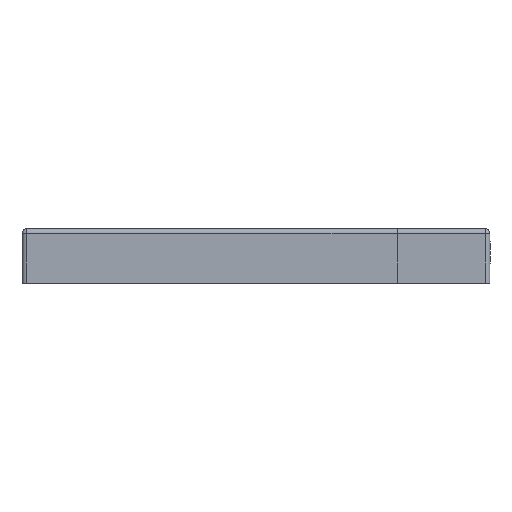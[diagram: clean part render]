
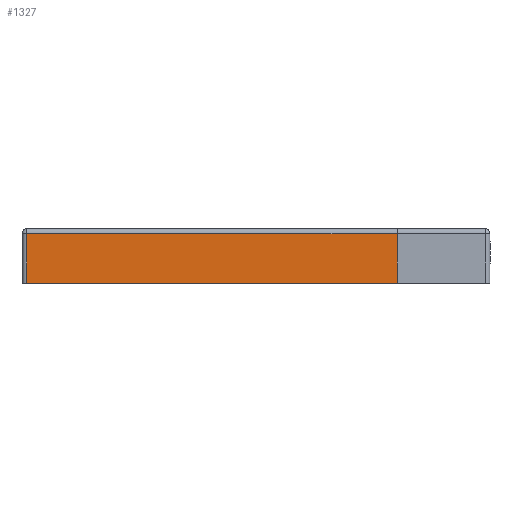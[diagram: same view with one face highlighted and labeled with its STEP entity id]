
A CAD part, front view. The second image highlights one B-rep face of the part: STEP entity #1327.
In plain terms, the highlighted planar face has unit normal (0, -1, -0.018).
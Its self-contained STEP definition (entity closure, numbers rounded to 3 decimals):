
#1327=ADVANCED_FACE('',(#4372),#3159,.F.);
#3159=PLANE('',#36000);
#4372=FACE_OUTER_BOUND('',#6114,.T.);
#6114=EDGE_LOOP('',(#15138,#15139,#15140,#15141,#15142,#15143,#15144));
#8908=LINE('',#47453,#11810);
#9020=LINE('',#47793,#11922);
#9021=LINE('',#47803,#11923);
#9022=LINE('',#47805,#11924);
#9023=LINE('',#47807,#11925);
#11810=VECTOR('',#38768,1.);
#11922=VECTOR('',#38972,1.);
#11923=VECTOR('',#38975,1.);
#11924=VECTOR('',#38976,1.);
#11925=VECTOR('',#38977,1.);
#15138=ORIENTED_EDGE('',*,*,#29341,.T.);
#15139=ORIENTED_EDGE('',*,*,#29342,.T.);
#15140=ORIENTED_EDGE('',*,*,#29343,.T.);
#15141=ORIENTED_EDGE('',*,*,#29344,.T.);
#15142=ORIENTED_EDGE('',*,*,#29345,.T.);
#15143=ORIENTED_EDGE('',*,*,#29346,.T.);
#15144=ORIENTED_EDGE('',*,*,#29200,.T.);
#25603=VERTEX_POINT('',#47452);
#25604=VERTEX_POINT('',#47454);
#25721=VERTEX_POINT('',#47792);
#25722=VERTEX_POINT('',#47797);
#25723=VERTEX_POINT('',#47802);
#25724=VERTEX_POINT('',#47804);
#25725=VERTEX_POINT('',#47806);
#29200=EDGE_CURVE('',#25604,#25603,#8908,.T.);
#29341=EDGE_CURVE('',#25603,#25721,#9020,.T.);
#29342=EDGE_CURVE('',#25721,#25722,#34346,.T.);
#29343=EDGE_CURVE('',#25722,#25723,#34347,.T.);
#29344=EDGE_CURVE('',#25723,#25724,#9021,.T.);
#29345=EDGE_CURVE('',#25724,#25725,#9022,.T.);
#29346=EDGE_CURVE('',#25725,#25604,#9023,.T.);
#34346=B_SPLINE_CURVE_WITH_KNOTS('',1,(#47795,#47796),.UNSPECIFIED.,.F.,
 .F.,(2,2),(0.,1.),.UNSPECIFIED.);
#34347=B_SPLINE_CURVE_WITH_KNOTS('',3,(#47798,#47799,#47800,#47801),
 .UNSPECIFIED.,.F.,.F.,(4,4),(0.,1.),.UNSPECIFIED.);
#36000=AXIS2_PLACEMENT_3D('',#47808,#38978,#38979);
#38768=DIRECTION('',(0.,-0.017,1.));
#38972=DIRECTION('',(-1.,0.,0.));
#38975=DIRECTION('',(1.,0.,0.));
#38976=DIRECTION('',(1.,0.,0.));
#38977=DIRECTION('',(1.,0.,0.));
#38978=DIRECTION('',(0.,1.,0.017));
#38979=DIRECTION('',(0.,0.017,-1.));
#47452=CARTESIAN_POINT('',(103.008,-172.706,0.));
#47453=CARTESIAN_POINT('',(103.008,-172.571,-7.737));
#47454=CARTESIAN_POINT('',(103.008,-172.436,-15.474));
#47792=CARTESIAN_POINT('',(-12.492,-172.706,0.));
#47793=CARTESIAN_POINT('',(81.008,-172.706,0.));
#47795=CARTESIAN_POINT('',(-12.492,-172.706,0.));
#47796=CARTESIAN_POINT('',(-12.492,-172.436,-15.474));
#47797=CARTESIAN_POINT('',(-12.492,-172.436,-15.474));
#47798=CARTESIAN_POINT('',(-12.492,-172.436,-15.474));
#47799=CARTESIAN_POINT('',(-3.325,-172.436,-15.474));
#47800=CARTESIAN_POINT('',(5.841,-172.436,-15.474));
#47801=CARTESIAN_POINT('',(15.008,-172.436,-15.474));
#47802=CARTESIAN_POINT('',(15.008,-172.436,-15.474));
#47803=CARTESIAN_POINT('',(26.008,-172.436,-15.474));
#47804=CARTESIAN_POINT('',(37.008,-172.436,-15.474));
#47805=CARTESIAN_POINT('',(70.008,-172.436,-15.474));
#47806=CARTESIAN_POINT('',(81.008,-172.436,-15.474));
#47807=CARTESIAN_POINT('',(92.008,-172.436,-15.474));
#47808=CARTESIAN_POINT('',(103.758,-172.706,0.029));
